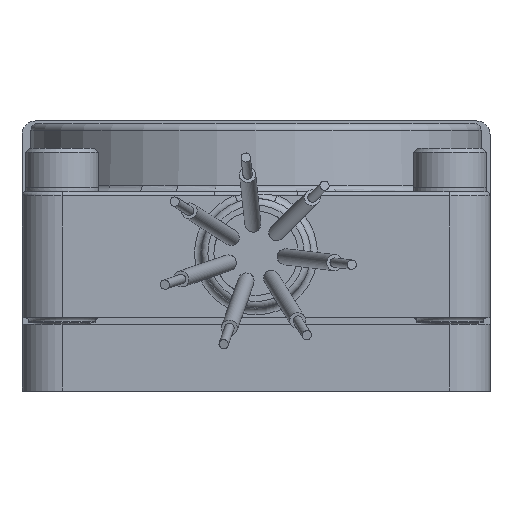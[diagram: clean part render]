
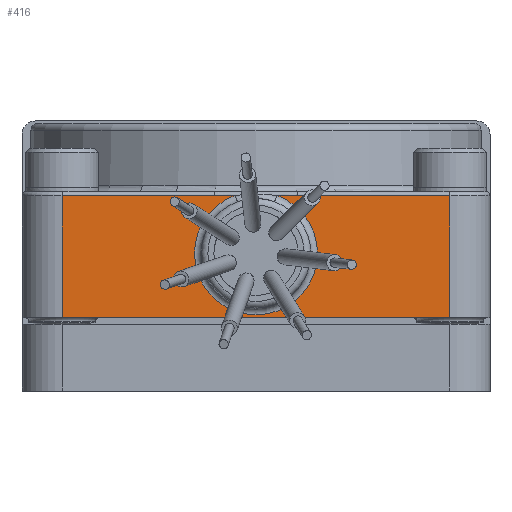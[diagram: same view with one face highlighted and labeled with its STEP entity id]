
A CAD part, front view. The second image highlights one B-rep face of the part: STEP entity #416.
In plain terms, the highlighted planar face has unit normal (0, -1, 0).
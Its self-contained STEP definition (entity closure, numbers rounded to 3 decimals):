
#416=ADVANCED_FACE('NONE',(#1054),#1055,.F.);
#1054=FACE_OUTER_BOUND('',#2162,.T.);
#1055=PLANE('',#2163);
#2162=EDGE_LOOP('',(#3698,#3699,#3700,#3701,#3702,#3703,#3704,#3705));
#2163=AXIS2_PLACEMENT_3D('',#3706,#3707,#3708);
#3698=ORIENTED_EDGE('',*,*,#5419,.T.);
#3699=ORIENTED_EDGE('',*,*,#5445,.T.);
#3700=ORIENTED_EDGE('',*,*,#5418,.T.);
#3701=ORIENTED_EDGE('',*,*,#5446,.T.);
#3702=ORIENTED_EDGE('',*,*,#5447,.T.);
#3703=ORIENTED_EDGE('',*,*,#5448,.F.);
#3704=ORIENTED_EDGE('',*,*,#5398,.T.);
#3705=ORIENTED_EDGE('',*,*,#5383,.T.);
#3706=CARTESIAN_POINT('',(-17.5,-47.5,-5.5));
#3707=DIRECTION('',(-0.0,1.0,0.0));
#3708=DIRECTION('',(1.0,0.0,0.0));
#5383=EDGE_CURVE('NONE',#6254,#6260,#6262,.T.);
#5398=EDGE_CURVE('NONE',#6286,#6254,#6287,.T.);
#5418=EDGE_CURVE('NONE',#5952,#6320,#6321,.T.);
#5419=EDGE_CURVE('NONE',#6260,#5950,#6322,.T.);
#5445=EDGE_CURVE('NONE',#5950,#5952,#6363,.T.);
#5446=EDGE_CURVE('NONE',#6320,#6302,#6364,.T.);
#5447=EDGE_CURVE('NONE',#6302,#6365,#6366,.T.);
#5448=EDGE_CURVE('NONE',#6286,#6365,#6367,.T.);
#5950=VERTEX_POINT('NONE',#7078);
#5952=VERTEX_POINT('NONE',#7080);
#6254=VERTEX_POINT('NONE',#7535);
#6260=VERTEX_POINT('NONE',#7543);
#6262=LINE('',#7545,#7546);
#6286=VERTEX_POINT('NONE',#7574);
#6287=LINE('',#7575,#7576);
#6302=VERTEX_POINT('NONE',#7591);
#6320=VERTEX_POINT('NONE',#7609);
#6321=B_SPLINE_CURVE_WITH_KNOTS('',3,(#7610,#7611,#7612,#7613),.UNSPECIFIED.,.F.,.F.,(4,4),(0.005,0.006),.UNSPECIFIED.);
#6322=B_SPLINE_CURVE_WITH_KNOTS('',3,(#7614,#7615,#7616,#7617),.UNSPECIFIED.,.F.,.F.,(4,4),(0.0,0.002),.UNSPECIFIED.);
#6363=CIRCLE('',#7667,4.6);
#6364=LINE('',#7668,#7669);
#6365=VERTEX_POINT('NONE',#7670);
#6366=LINE('',#7671,#7672);
#6367=LINE('',#7673,#7674);
#7078=CARTESIAN_POINT('',(1.556,-47.5,3.629));
#7080=CARTESIAN_POINT('',(-1.556,-47.5,3.629));
#7535=CARTESIAN_POINT('',(14.5,-47.5,3.6));
#7543=CARTESIAN_POINT('',(3.132,-47.5,3.6));
#7545=CARTESIAN_POINT('',(-14.5,-47.5,3.6));
#7546=VECTOR('',#8892,1.0);
#7574=CARTESIAN_POINT('',(14.5,-47.5,-5.5));
#7575=CARTESIAN_POINT('',(14.5,-47.5,-5.5));
#7576=VECTOR('',#8915,1.0);
#7591=CARTESIAN_POINT('',(-14.5,-47.5,3.6));
#7609=CARTESIAN_POINT('',(-3.132,-47.5,3.6));
#7610=CARTESIAN_POINT('',(-1.556,-47.5,3.629));
#7611=CARTESIAN_POINT('',(-2.081,-47.5,3.616));
#7612=CARTESIAN_POINT('',(-2.607,-47.5,3.6));
#7613=CARTESIAN_POINT('',(-3.132,-47.5,3.6));
#7614=CARTESIAN_POINT('',(3.132,-47.5,3.6));
#7615=CARTESIAN_POINT('',(2.607,-47.5,3.6));
#7616=CARTESIAN_POINT('',(2.081,-47.5,3.616));
#7617=CARTESIAN_POINT('',(1.556,-47.5,3.629));
#7667=AXIS2_PLACEMENT_3D('',#9000,#9001,#9002);
#7668=CARTESIAN_POINT('',(-14.5,-47.5,3.6));
#7669=VECTOR('',#9003,1.0);
#7670=CARTESIAN_POINT('',(-14.5,-47.5,-5.5));
#7671=CARTESIAN_POINT('',(-14.5,-47.5,-5.5));
#7672=VECTOR('',#9004,1.0);
#7673=CARTESIAN_POINT('',(-17.5,-47.5,-5.5));
#7674=VECTOR('',#9005,1.0);
#8892=DIRECTION('',(-1.0,0.0,0.0));
#8915=DIRECTION('',(0.0,0.0,1.0));
#9000=CARTESIAN_POINT('',(0.,-47.5,-0.7));
#9001=DIRECTION('',(0.0,1.0,0.0));
#9002=DIRECTION('',(0.0,0.0,1.0));
#9003=DIRECTION('',(-1.0,0.0,0.0));
#9004=DIRECTION('',(0.0,0.0,-1.0));
#9005=DIRECTION('',(-1.0,0.0,0.0));
